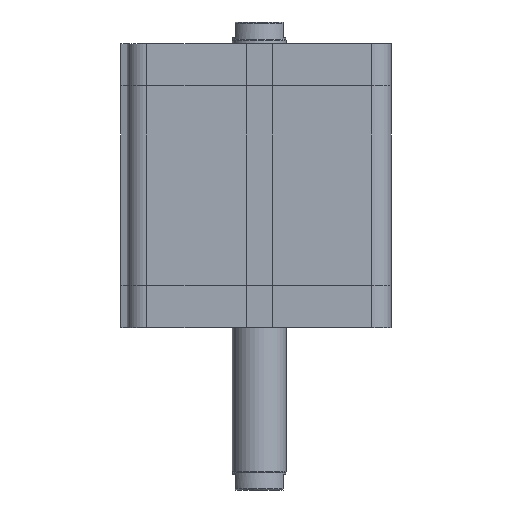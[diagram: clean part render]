
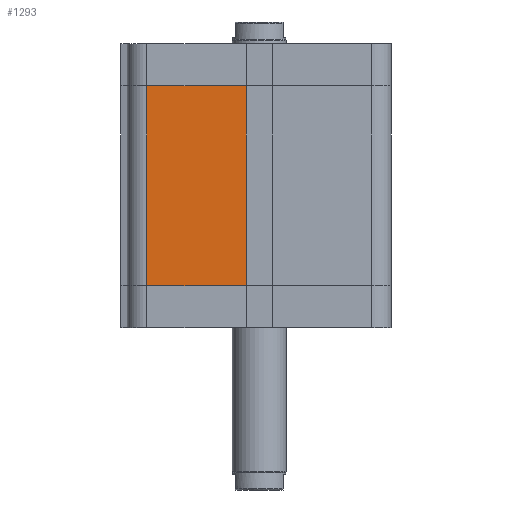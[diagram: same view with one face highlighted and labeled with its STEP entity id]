
A CAD part, left-side view. The second image highlights one B-rep face of the part: STEP entity #1293.
In plain terms, the highlighted planar face has unit normal (-1, 0, 0).
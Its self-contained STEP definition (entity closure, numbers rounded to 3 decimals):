
#1204=CARTESIAN_POINT('',(-61.0,52.,19.5));
#1205=VERTEX_POINT('',#1204);
#1213=CARTESIAN_POINT('',(-61.0,52.,112.0));
#1214=VERTEX_POINT('',#1213);
#1215=CARTESIAN_POINT('',(-61.0,52.,19.5));
#1216=DIRECTION('',(0.0,0.0,1.0));
#1217=VECTOR('',#1216,92.5);
#1218=LINE('',#1215,#1217);
#1219=EDGE_CURVE('',#1205,#1214,#1218,.T.);
#1263=CARTESIAN_POINT('',(-61.,6.,0.0));
#1264=DIRECTION('',(-1.0,0.0,0.0));
#1265=DIRECTION('',(0.0,0.0,1.0));
#1266=AXIS2_PLACEMENT_3D('',#1263,#1264,#1265);
#1267=PLANE('',#1266);
#1268=CARTESIAN_POINT('',(-61.,6.,19.5));
#1269=VERTEX_POINT('',#1268);
#1270=CARTESIAN_POINT('',(-61.0,52.,19.5));
#1271=DIRECTION('',(0.0,-1.0,0.0));
#1272=VECTOR('',#1271,46.);
#1273=LINE('',#1270,#1272);
#1274=EDGE_CURVE('',#1205,#1269,#1273,.T.);
#1275=ORIENTED_EDGE('',*,*,#1274,.T.);
#1276=CARTESIAN_POINT('',(-61.,6.,112.0));
#1277=VERTEX_POINT('',#1276);
#1278=CARTESIAN_POINT('',(-61.,6.,19.5));
#1279=DIRECTION('',(0.0,0.0,1.0));
#1280=VECTOR('',#1279,92.5);
#1281=LINE('',#1278,#1280);
#1282=EDGE_CURVE('',#1269,#1277,#1281,.T.);
#1283=ORIENTED_EDGE('',*,*,#1282,.T.);
#1284=CARTESIAN_POINT('',(-61.0,52.,112.0));
#1285=DIRECTION('',(0.0,-1.0,0.0));
#1286=VECTOR('',#1285,46.);
#1287=LINE('',#1284,#1286);
#1288=EDGE_CURVE('',#1214,#1277,#1287,.T.);
#1289=ORIENTED_EDGE('',*,*,#1288,.F.);
#1290=ORIENTED_EDGE('',*,*,#1219,.F.);
#1291=EDGE_LOOP('',(#1275,#1283,#1289,#1290));
#1292=FACE_OUTER_BOUND('',#1291,.T.);
#1293=ADVANCED_FACE('',(#1292),#1267,.T.);
